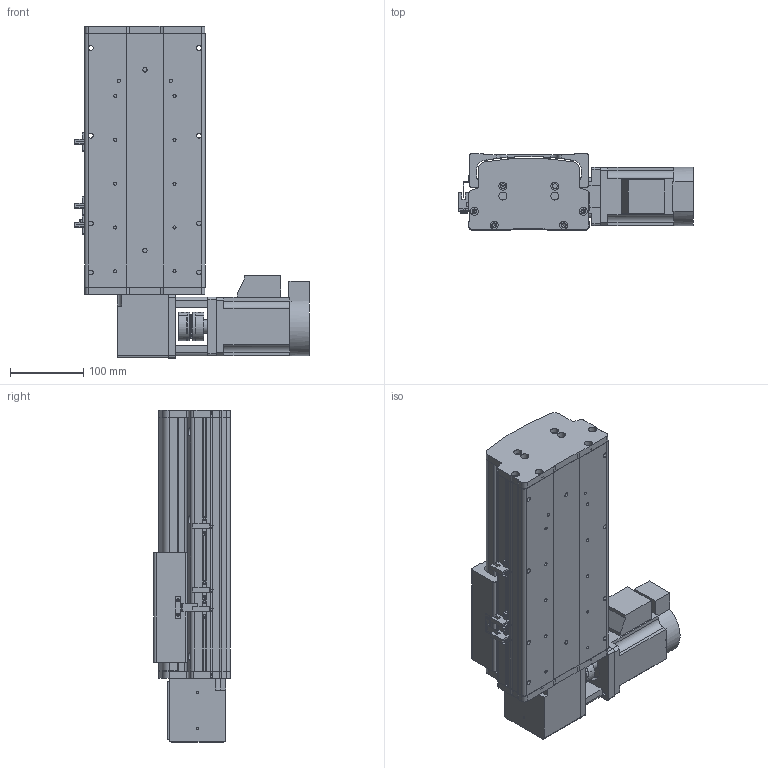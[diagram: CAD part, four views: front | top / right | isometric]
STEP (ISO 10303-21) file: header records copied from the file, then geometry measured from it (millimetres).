
FILE_DESCRIPTION (( 'STEP AP214' ), '1' );
FILE_NAME ('KSD165B-S100-MRT-CM.STEP', '2017-08-07T09:15:21', ( '微软用户' ), ( '微软中国' ), 'SwSTEP 2.0', 'SolidWorks 2014', '' );
FILE_SCHEMA (( 'AUTOMOTIVE_DESIGN' ));
Length unit declared in the file: millimetre
Products named in the file (16): 130宽马达安装板1-带电机座750W（1）; KSD165模组-同步带滑动座-最新版; KSD165B-S100-MRT-CM; KSD165模组-同步带防尘盖1-100行程-最新版; KSD165模组同步带底板-100行程-最新; 拸秶雄ん750W侜督萇儂; 165宽安装板同步带带电机座750W; 165宽马达安装板同步带右; C39ㄜ1419WP; U倰嫖萇假蚾璃; U倰嫖萇EEㄜSX672; 覜茼え68遵圉猾敕; KSD165模组-同步带-防撞垫2; KSD165模组同步带-防撞垫1; KSD165耀郪-ヶ傷啣1-肮祭湍; KSD165模组-后端板1-同步带
Assembly tree (19 placements, depth 2):
  KSD165B-S100-MRT-CM
    KSD165模组-同步带滑动座-最新版
    130宽马达安装板1-带电机座750W（1）
    KSD165模组-后端板1-同步带
    KSD165耀郪-ヶ傷啣1-肮祭湍
    KSD165模组同步带-防撞垫1
    KSD165模组-同步带-防撞垫2
    覜茼え68遵圉猾敕
    U倰嫖萇EEㄜSX672  x3
    U倰嫖萇假蚾璃  x3
    C39ㄜ1419WP
    165宽马达安装板同步带右
    165宽安装板同步带带电机座750W
    拸秶雄ん750W侜督萇儂
    KSD165模组同步带底板-100行程-最新
    KSD165模组-同步带防尘盖1-100行程-最新版
Bounding box: 321.2 x 104 x 454 mm (x, y, z)
Volume: 3821312.1 mm3; surface area: 825926.2 mm2
Topology: 20 solids, 20 shells, 1384 faces, 3828 edges, 2473 vertices
Faces by surface type: cylinder 723, plane 567, cone 94
Entity records: 42911 total; most frequent: CARTESIAN_POINT 9029, DIRECTION 6718, ORIENTED_EDGE 6308, EDGE_CURVE 3154, AXIS2_PLACEMENT_3D 2530, VERTEX_POINT 2065, LINE 1658, VECTOR 1658
